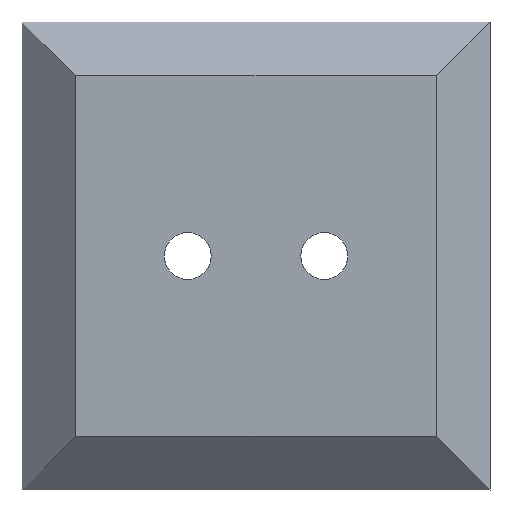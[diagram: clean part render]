
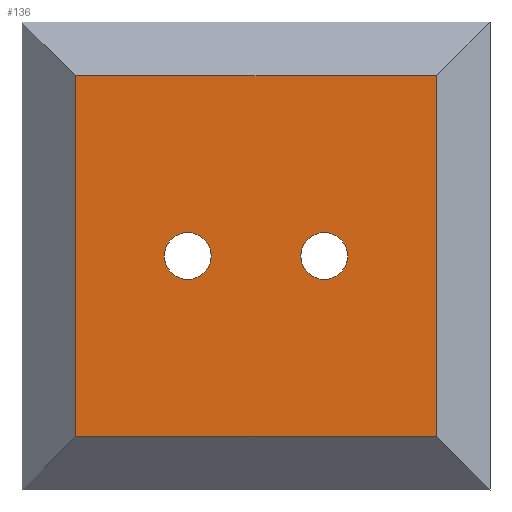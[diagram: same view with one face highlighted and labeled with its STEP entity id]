
A CAD part, front view. The second image highlights one B-rep face of the part: STEP entity #136.
In plain terms, the highlighted planar face has unit normal (0, -1, 0) as drawn and (0, 1, 0) by its records, which use the part's own axes.
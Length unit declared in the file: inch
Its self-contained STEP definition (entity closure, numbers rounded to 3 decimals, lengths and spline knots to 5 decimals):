
#2 = DIRECTION ( 'NONE',  ( 0., 1., 0. ) ) ;
#3 = VERTEX_POINT ( 'NONE', #105 ) ;
#4 = LINE ( 'NONE', #292, #445 ) ;
#22 = VECTOR ( 'NONE', #216, 39.37008 ) ;
#32 = CARTESIAN_POINT ( 'NONE',  ( 5.75, 0.475, -9.25 ) ) ;
#33 = EDGE_CURVE ( 'NONE', #3, #607, #353, .T. ) ;
#37 = VERTEX_POINT ( 'NONE', #57 ) ;
#55 = CARTESIAN_POINT ( 'NONE',  ( 12.75, 0.475, -9.25 ) ) ;
#57 = CARTESIAN_POINT ( 'NONE',  ( 0., 0.475, 0. ) ) ;
#71 = FACE_BOUND ( 'NONE', #429, .T. ) ;
#82 = CARTESIAN_POINT ( 'NONE',  ( 0., 0.475, 0. ) ) ;
#97 = AXIS2_PLACEMENT_3D ( 'NONE', #282, #464, #489 ) ;
#105 = CARTESIAN_POINT ( 'NONE',  ( 18.5, 0.475, 0. ) ) ;
#110 = ORIENTED_EDGE ( 'NONE', *, *, #179, .F. ) ;
#113 = DIRECTION ( 'NONE',  ( 0., 0., -1. ) ) ;
#123 = DIRECTION ( 'NONE',  ( 0., 1., 0. ) ) ;
#134 = AXIS2_PLACEMENT_3D ( 'NONE', #32, #123, #469 ) ;
#136 = ADVANCED_FACE ( 'NONE', ( #522, #71, #329 ), #176, .F. ) ;
#150 = DIRECTION ( 'NONE',  ( -1., 0., 0. ) ) ;
#162 = DIRECTION ( 'NONE',  ( 0., 1., 0. ) ) ;
#176 = PLANE ( 'NONE',  #193 ) ;
#179 = EDGE_CURVE ( 'NONE', #599, #576, #250, .T. ) ;
#182 = AXIS2_PLACEMENT_3D ( 'NONE', #55, #2, #288 ) ;
#193 = AXIS2_PLACEMENT_3D ( 'NONE', #82, #524, #321 ) ;
#206 = VERTEX_POINT ( 'NONE', #517 ) ;
#216 = DIRECTION ( 'NONE',  ( 0., 0., 1. ) ) ;
#217 = CARTESIAN_POINT ( 'NONE',  ( 18.5, 0.475, 0. ) ) ;
#238 = VECTOR ( 'NONE', #510, 39.37008 ) ;
#250 = CIRCLE ( 'NONE', #134, 1.2 ) ;
#251 = CARTESIAN_POINT ( 'NONE',  ( 0., 0.475, -18.5 ) ) ;
#256 = CARTESIAN_POINT ( 'NONE',  ( 5.75, 0.475, -9.25 ) ) ;
#265 = ORIENTED_EDGE ( 'NONE', *, *, #499, .T. ) ;
#273 = EDGE_CURVE ( 'NONE', #607, #451, #4, .T. ) ;
#282 = CARTESIAN_POINT ( 'NONE',  ( 12.75, 0.475, -9.25 ) ) ;
#287 = ORIENTED_EDGE ( 'NONE', *, *, #409, .F. ) ;
#288 = DIRECTION ( 'NONE',  ( 0., 0., 1. ) ) ;
#292 = CARTESIAN_POINT ( 'NONE',  ( 0., 0.475, -18.5 ) ) ;
#300 = VECTOR ( 'NONE', #448, 39.37008 ) ;
#310 = CARTESIAN_POINT ( 'NONE',  ( 0., 0.475, 0. ) ) ;
#318 = CARTESIAN_POINT ( 'NONE',  ( 0., 0.475, 0. ) ) ;
#321 = DIRECTION ( 'NONE',  ( 0., 0., -1. ) ) ;
#329 = FACE_OUTER_BOUND ( 'NONE', #336, .T. ) ;
#336 = EDGE_LOOP ( 'NONE', ( #509, #265, #585, #392 ) ) ;
#342 = AXIS2_PLACEMENT_3D ( 'NONE', #256, #162, #113 ) ;
#353 = LINE ( 'NONE', #217, #300 ) ;
#356 = EDGE_CURVE ( 'NONE', #451, #37, #398, .T. ) ;
#369 = CIRCLE ( 'NONE', #97, 1.2 ) ;
#378 = CARTESIAN_POINT ( 'NONE',  ( 12.75, 0.475, -10.45 ) ) ;
#386 = CARTESIAN_POINT ( 'NONE',  ( 18.5, 0.475, -18.5 ) ) ;
#391 = CARTESIAN_POINT ( 'NONE',  ( 5.75, 0.475, -8.05 ) ) ;
#392 = ORIENTED_EDGE ( 'NONE', *, *, #273, .T. ) ;
#398 = LINE ( 'NONE', #310, #22 ) ;
#409 = EDGE_CURVE ( 'NONE', #576, #599, #528, .T. ) ;
#429 = EDGE_LOOP ( 'NONE', ( #110, #287 ) ) ;
#445 = VECTOR ( 'NONE', #150, 39.37008 ) ;
#448 = DIRECTION ( 'NONE',  ( 0., 0., -1. ) ) ;
#451 = VERTEX_POINT ( 'NONE', #251 ) ;
#464 = DIRECTION ( 'NONE',  ( 0., 1., 0. ) ) ;
#469 = DIRECTION ( 'NONE',  ( 0., 0., -1. ) ) ;
#474 = CARTESIAN_POINT ( 'NONE',  ( 5.75, 0.475, -10.45 ) ) ;
#483 = CIRCLE ( 'NONE', #182, 1.2 ) ;
#486 = ORIENTED_EDGE ( 'NONE', *, *, #565, .F. ) ;
#489 = DIRECTION ( 'NONE',  ( 0., 0., 1. ) ) ;
#499 = EDGE_CURVE ( 'NONE', #37, #3, #559, .T. ) ;
#503 = ORIENTED_EDGE ( 'NONE', *, *, #601, .F. ) ;
#509 = ORIENTED_EDGE ( 'NONE', *, *, #356, .T. ) ;
#510 = DIRECTION ( 'NONE',  ( 1., 0., 0. ) ) ;
#517 = CARTESIAN_POINT ( 'NONE',  ( 12.75, 0.475, -8.05 ) ) ;
#522 = FACE_BOUND ( 'NONE', #531, .T. ) ;
#524 = DIRECTION ( 'NONE',  ( 0., -1., 0. ) ) ;
#528 = CIRCLE ( 'NONE', #342, 1.2 ) ;
#531 = EDGE_LOOP ( 'NONE', ( #486, #503 ) ) ;
#559 = LINE ( 'NONE', #318, #238 ) ;
#565 = EDGE_CURVE ( 'NONE', #206, #589, #483, .T. ) ;
#576 = VERTEX_POINT ( 'NONE', #474 ) ;
#585 = ORIENTED_EDGE ( 'NONE', *, *, #33, .T. ) ;
#589 = VERTEX_POINT ( 'NONE', #378 ) ;
#599 = VERTEX_POINT ( 'NONE', #391 ) ;
#601 = EDGE_CURVE ( 'NONE', #589, #206, #369, .T. ) ;
#607 = VERTEX_POINT ( 'NONE', #386 ) ;
